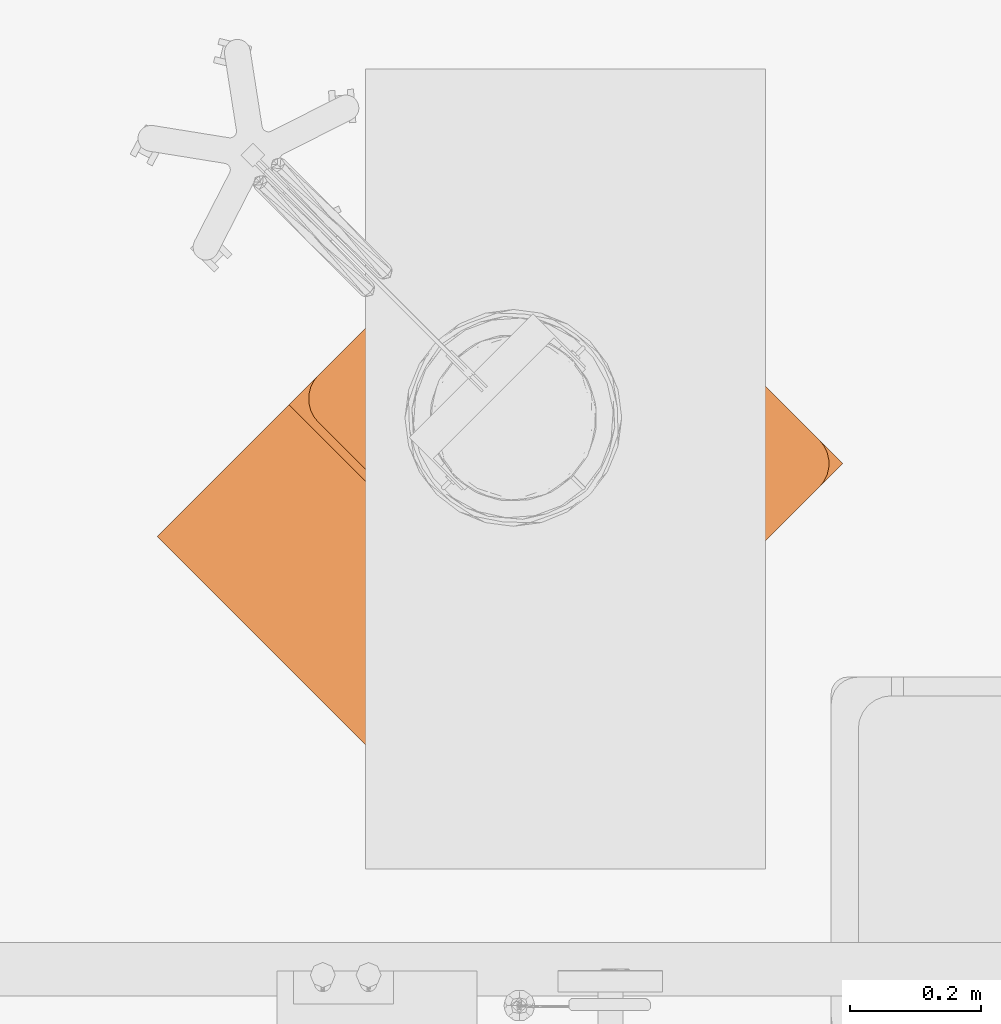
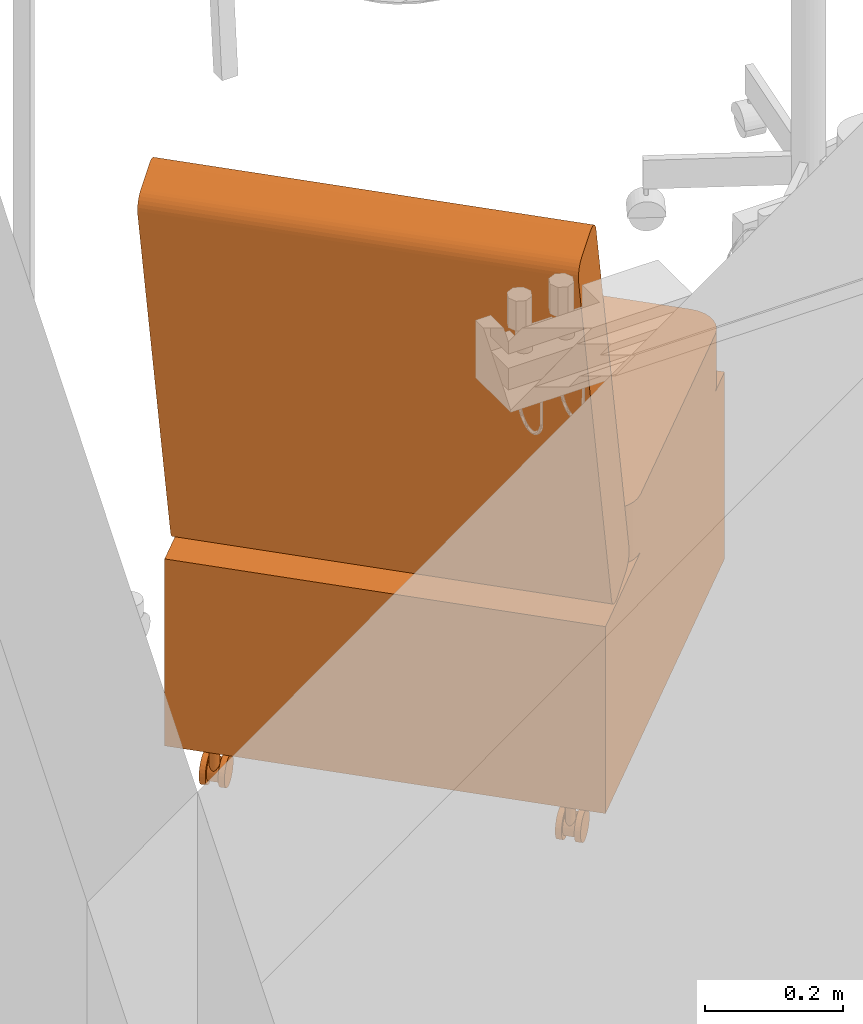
# One storey, part 24 of 142: 1 proxy.
"""IFC2X3 building model written with IfcOpenShell, lengths in feet."""

import ifcopenshell
import ifcopenshell.guid

model = None  # the IFC model being written
_history = None  # IfcOwnerHistory: only IFC2X3 demands one
_inside = {}  # id of a spatial element -> (the spatial element, [elements in it])
_under = {}  # id of a project, library or spatial element -> (it, [spatial elements below it])
_declared = {}  # id of a project -> (the project, [libraries it declares])
_typed = {}  # id of a type object -> (the type object, [elements of that type])
_made_of = {}  # id of a material, layer set ... -> (it, [elements and type objects made of it])


def new_model(schema):
    """Start an empty IFC model of exactly this schema.

    Asked for "IFC4X3", IfcOpenShell would pick the latest addendum, in which some entities
    have other attributes; the version numbers below select the first issue.
    IFC2X3 requires an IfcOwnerHistory on every rooted entity: one is made here for all.
    """
    global model, _history
    if schema == "IFC4X3":
        model = ifcopenshell.file(schema_version=(4, 3, 0, 0))
    else:
        model = ifcopenshell.file(schema=schema)
    _inside.clear()
    _under.clear()
    _declared.clear()
    _typed.clear()
    _made_of.clear()
    _history = None
    if model.schema == "IFC2X3":
        org = make("IfcOrganization", Name="unknown")
        user = make(
            "IfcPersonAndOrganization",
            ThePerson=make("IfcPerson", FamilyName="unknown"),
            TheOrganization=org,
        )
        app = make(
            "IfcApplication",
            ApplicationDeveloper=org,
            Version="unknown",
            ApplicationFullName="unknown",
            ApplicationIdentifier="unknown",
        )
        _history = make(
            "IfcOwnerHistory",
            OwningUser=user,
            OwningApplication=app,
            ChangeAction="ADDED",
            CreationDate=0,
        )
    return model


def make(cls, **values):
    """One entity of the class cls with the attributes given. An attribute that is None is left unset."""
    return model.create_entity(
        cls, **{name: value for name, value in values.items() if value is not None}
    )


def entity(cls, *values):
    """Any entity or typed value of the class cls, its attributes in the order of the schema. None: left unset."""
    e = model.create_entity(cls)
    for i, value in enumerate(values):
        if value is not None:
            e[i] = value
    return e


def rooted(cls, **values):
    """An entity with a GlobalId (a new one), such as an element, a storey or a relation."""
    return make(cls, GlobalId=ifcopenshell.guid.new(), OwnerHistory=_history, **values)


def si_unit(unit_type, name, prefix=None):
    """IfcSIUnit, for example si_unit("LENGTHUNIT", "METRE", prefix="MILLI")."""
    return make("IfcSIUnit", UnitType=unit_type, Prefix=prefix, Name=name)


def converted_unit(unit_type, name, factor, base, dimensions=None, offset=None):
    """IfcConversionBasedUnit, such as the inch: factor (a typed value) times the base unit."""
    return make(
        "IfcConversionBasedUnit"
        if offset is None
        else "IfcConversionBasedUnitWithOffset",
        ConversionOffset=offset,
        Dimensions=None
        if dimensions is None
        else entity("IfcDimensionalExponents", *dimensions),
        UnitType=unit_type,
        Name=name,
        ConversionFactor=make(
            "IfcMeasureWithUnit", ValueComponent=factor, UnitComponent=base
        ),
    )


def derived_unit(unit_type, elements):
    """IfcDerivedUnit: a product of units, each with its exponent."""
    return make(
        "IfcDerivedUnit",
        Elements=[
            make("IfcDerivedUnitElement", Unit=unit, Exponent=power)
            for unit, power in elements
        ],
        UnitType=unit_type,
    )


def assignment(units):
    """IfcUnitAssignment: the units of a project."""
    return None if units is None else make("IfcUnitAssignment", Units=units)


def point(xyz):
    """IfcCartesianPoint."""
    return None if xyz is None else make("IfcCartesianPoint", Coordinates=xyz)


def direction(xyz):
    """IfcDirection."""
    return None if xyz is None else make("IfcDirection", DirectionRatios=xyz)


def frame(location, z_axis=None, x_axis=None):
    """IfcAxis2Placement3D, a coordinate frame: its origin and axes. An axis left out is left unset."""
    return make(
        "IfcAxis2Placement3D",
        Location=point(location),
        Axis=direction(z_axis),
        RefDirection=direction(x_axis),
    )


def frame_2d(location, x_axis=None):
    """IfcAxis2Placement2D, a coordinate frame in the plane: its origin and x axis."""
    return make(
        "IfcAxis2Placement2D", Location=point(location), RefDirection=direction(x_axis)
    )


def origin():
    """The frame at (0, 0, 0) with its axes left unset."""
    return frame((0.0, 0.0, 0.0))


def origin_2d_with_axis():
    """The frame at (0, 0) in the plane with the x axis (1, 0) written out."""
    return frame_2d((0.0, 0.0), x_axis=(1.0, 0.0))


def place(relative_to, where):
    """IfcLocalPlacement: puts the frame where relative to a parent placement (None: the world)."""
    return make(
        "IfcLocalPlacement", PlacementRelTo=relative_to, RelativePlacement=where
    )


def context(
    kind, dimensions, precision=None, world=None, true_north=None, identifier=None
):
    """IfcGeometricRepresentationContext, for example the 3D "Model" context."""
    return make(
        "IfcGeometricRepresentationContext",
        ContextIdentifier=identifier,
        ContextType=kind,
        CoordinateSpaceDimension=dimensions,
        Precision=precision,
        WorldCoordinateSystem=world,
        TrueNorth=true_north,
    )


def subcontext(parent, identifier, kind, view, scale=None):
    """IfcGeometricRepresentationSubContext, for example "Body" below "Model"."""
    return make(
        "IfcGeometricRepresentationSubContext",
        ContextIdentifier=identifier,
        ContextType=kind,
        ParentContext=parent,
        TargetScale=scale,
        TargetView=view,
    )


def project(units=None, contexts=None):
    """IfcProject with its units and contexts."""
    return rooted(
        "IfcProject",
        Name="project",
        RepresentationContexts=contexts,
        UnitsInContext=assignment(units),
    )


def spatial(cls, under=None, at=None, **own):
    """A site, building, storey or space (cls), placed at a placement, below another one or the project."""
    s = rooted(cls, ObjectPlacement=at, **own)
    if under is not None:
        _under.setdefault(under.id(), (under, []))[1].append(s)
    return s


def polyline(points):
    """IfcPolyline through the points."""
    return make("IfcPolyline", Points=[point(p) for p in points])


def circle_curve(where, radius):
    """IfcCircle in the frame where."""
    return make("IfcCircle", Position=where, Radius=radius)


def parameter(value):
    """IfcParameterValue: where a trimmed curve begins or ends, as a parameter of its basis curve."""
    return model.create_entity("IfcParameterValue", value)


def trimmed(basis, trim1, trim2, sense, master):
    """IfcTrimmedCurve: the piece of a basis curve between two trims."""
    return make(
        "IfcTrimmedCurve",
        BasisCurve=basis,
        Trim1=trim1,
        Trim2=trim2,
        SenseAgreement=sense,
        MasterRepresentation=master,
    )


def segment(curve, same_sense, transition):
    """IfcCompositeCurveSegment."""
    return make(
        "IfcCompositeCurveSegment",
        Transition=transition,
        SameSense=same_sense,
        ParentCurve=curve,
    )


def composite_curve(segments, self_intersect=None):
    """IfcCompositeCurve: segments joined end to end."""
    return make("IfcCompositeCurve", Segments=segments, SelfIntersect=self_intersect)


def profile(cls, at=None, kind="AREA", **sizes):
    """A parametric profile (cls). Its sizes go by their IFC names, for example OverallWidth=200.0."""
    return make(cls, ProfileType=kind, Position=at, **sizes)


def rectangle(**sizes):
    """IfcRectangleProfileDef."""
    return profile("IfcRectangleProfileDef", **sizes)


def circle(**sizes):
    """IfcCircleProfileDef."""
    return profile("IfcCircleProfileDef", **sizes)


def outline(outer, holes=None, kind="AREA"):
    """IfcArbitraryClosedProfileDef: a profile drawn as a closed curve; with holes, ...WithVoids."""
    if holes is None:
        return make("IfcArbitraryClosedProfileDef", ProfileType=kind, OuterCurve=outer)
    return make(
        "IfcArbitraryProfileDefWithVoids",
        ProfileType=kind,
        OuterCurve=outer,
        InnerCurves=holes,
    )


def extrude(swept, where, along, depth):
    """IfcExtrudedAreaSolid: the profile swept, set in the frame where, extruded along a direction by depth."""
    return make(
        "IfcExtrudedAreaSolid",
        SweptArea=swept,
        Position=where,
        ExtrudedDirection=direction(along),
        Depth=depth,
    )


def shape(context_of_items, identifier, shape_type, items):
    """IfcShapeRepresentation: the items that make up one representation, for example the "Body"."""
    return make(
        "IfcShapeRepresentation",
        ContextOfItems=context_of_items,
        RepresentationIdentifier=identifier,
        RepresentationType=shape_type,
        Items=items,
    )


def source(mapping_origin, context_of_items, identifier, shape_type, items):
    """IfcRepresentationMap: a shape defined once, which mapped items show again and again."""
    return make(
        "IfcRepresentationMap",
        MappingOrigin=mapping_origin,
        MappedRepresentation=shape(context_of_items, identifier, shape_type, items),
    )


def transform(
    local_origin,
    x_axis=None,
    y_axis=None,
    z_axis=None,
    scale=None,
    scale2=None,
    scale3=None,
    uniform=True,
):
    """IfcCartesianTransformationOperator3D, or its non-uniform kind. x_axis, y_axis, z_axis: its Axis1, 2, 3."""
    if uniform:
        return make(
            "IfcCartesianTransformationOperator3D",
            Axis1=direction(x_axis),
            Axis2=direction(y_axis),
            LocalOrigin=point(local_origin),
            Scale=scale,
            Axis3=direction(z_axis),
        )
    return make(
        "IfcCartesianTransformationOperator3DnonUniform",
        Axis1=direction(x_axis),
        Axis2=direction(y_axis),
        LocalOrigin=point(local_origin),
        Scale=scale,
        Axis3=direction(z_axis),
        Scale2=scale2,
        Scale3=scale3,
    )


def mapped(mapping_source, mapping_target):
    """IfcMappedItem: shows the shape of a source again, moved by a transform."""
    return make(
        "IfcMappedItem", MappingSource=mapping_source, MappingTarget=mapping_target
    )


def made_of(thing, what):
    """Note that an element or type object is made of a material, layer set ...; save() writes the relation."""
    if what is not None:
        _made_of.setdefault(what.id(), (what, []))[1].append(thing)
    return thing


def type_object(cls, material=None, **own):
    """A type object (cls), such as IfcWallType, which elements share."""
    return made_of(rooted(cls, **own), material)


def type_shapes(of_type, sources):
    """Give a type object the sources (RepresentationMaps) that its elements show as mapped items."""
    of_type.RepresentationMaps = sources


def element(
    cls,
    number,
    at=None,
    inside=None,
    cuts=None,
    type_object=None,
    material=None,
    context=None,
    identifier="Body",
    shape_type=None,
    held_by="IfcProductDefinitionShape",
    body=None,
    shapes=None,
    **own,
):
    """One element of the class cls, such as IfcWall. Its Tag is "e" and its number.

    at: its placement. inside: the storey or other place that contains it. cuts: it is an
    opening in that element (IfcRelVoidsElement). A single representation is given by context,
    identifier, shape_type and body (its items); several are given by shapes. held_by: the class
    of the entity that holds the representations. save() writes the other relations.
    """
    e = rooted(cls, Tag="e%d" % number, ObjectPlacement=at, **own)
    if body is not None:
        shapes = [shape(context, identifier, shape_type, body)]
    if shapes is not None:
        e.Representation = make(held_by, Representations=shapes)
    if inside is not None:
        _inside.setdefault(inside.id(), (inside, []))[1].append(e)
    if cuts is not None:
        rooted(
            "IfcRelVoidsElement", RelatingBuildingElement=cuts, RelatedOpeningElement=e
        )
    if type_object is not None:
        _typed.setdefault(type_object.id(), (type_object, []))[1].append(e)
    return made_of(e, material)


def aggregate(whole, parts):
    """IfcRelAggregates: a whole, such as a stair, and the parts it consists of."""
    return rooted("IfcRelAggregates", RelatingObject=whole, RelatedObjects=parts)


def save(model, path):
    """Write the relations noted so far, then the file.

    IfcRelAggregates (storeys below a building ...), IfcRelContainedInSpatialStructure (elements
    in a storey), IfcRelDefinesByType, IfcRelAssociatesMaterial and IfcRelDeclares: one each for
    every whole, place, type object, material and project.
    """
    for whole, parts in _under.values():
        aggregate(whole, parts)
    for where, things in _inside.values():
        rooted(
            "IfcRelContainedInSpatialStructure",
            RelatedElements=things,
            RelatingStructure=where,
        )
    for kind, things in _typed.values():
        rooted("IfcRelDefinesByType", RelatedObjects=things, RelatingType=kind)
    for what, things in _made_of.values():
        rooted("IfcRelAssociatesMaterial", RelatedObjects=things, RelatingMaterial=what)
    for by, libraries in _declared.values():
        rooted("IfcRelDeclares", RelatingContext=by, RelatedDefinitions=libraries)
    model.write(path)


model = new_model("IFC2X3")

# Units and contexts
model_context = context("Model", 3, precision=0.0001, world=origin(), true_north=direction((6.12303176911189e-17, 1.0)))
body_context = subcontext(model_context, "Body", "Model", "MODEL_VIEW")
ifc_project = project(units=[converted_unit("LENGTHUNIT", "FOOT", entity("IfcRatioMeasure", 0.3048), si_unit("LENGTHUNIT", "METRE"), dimensions=[1, 0, 0, 0, 0, 0, 0]), converted_unit("AREAUNIT", "SQUARE FOOT", entity("IfcRatioMeasure", 0.09290304), si_unit("AREAUNIT", "SQUARE_METRE"), dimensions=[2, 0, 0, 0, 0, 0, 0]), converted_unit("VOLUMEUNIT", "CUBIC FOOT", entity("IfcRatioMeasure", 0.028316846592), si_unit("VOLUMEUNIT", "CUBIC_METRE"), dimensions=[3, 0, 0, 0, 0, 0, 0]), converted_unit("PLANEANGLEUNIT", "DEGREE", entity("IfcRatioMeasure", 0.0174532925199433), si_unit("PLANEANGLEUNIT", "RADIAN"), dimensions=[0, 0, 0, 0, 0, 0, 0]), si_unit("MASSUNIT", "GRAM", prefix="KILO"), derived_unit("MASSDENSITYUNIT", [(si_unit("MASSUNIT", "GRAM", prefix="KILO"), 1), (si_unit("LENGTHUNIT", "METRE"), -3)]), si_unit("TIMEUNIT", "SECOND"), si_unit("FREQUENCYUNIT", "HERTZ"), si_unit("THERMODYNAMICTEMPERATUREUNIT", "DEGREE_CELSIUS"), derived_unit("THERMALTRANSMITTANCEUNIT", [(si_unit("MASSUNIT", "GRAM", prefix="KILO"), 1), (si_unit("THERMODYNAMICTEMPERATUREUNIT", "KELVIN"), -1), (si_unit("TIMEUNIT", "SECOND"), -3)]), derived_unit("VOLUMETRICFLOWRATEUNIT", [(si_unit("LENGTHUNIT", "METRE"), 3), (si_unit("TIMEUNIT", "SECOND"), -1)]), si_unit("ELECTRICCURRENTUNIT", "AMPERE"), si_unit("ELECTRICVOLTAGEUNIT", "VOLT"), si_unit("POWERUNIT", "WATT"), si_unit("FORCEUNIT", "NEWTON"), si_unit("ILLUMINANCEUNIT", "LUX"), si_unit("LUMINOUSFLUXUNIT", "LUMEN"), si_unit("LUMINOUSINTENSITYUNIT", "CANDELA"), derived_unit("USERDEFINED", [(si_unit("MASSUNIT", "GRAM", prefix="KILO"), -1), (si_unit("LENGTHUNIT", "METRE"), -2), (si_unit("TIMEUNIT", "SECOND"), 3), (si_unit("LUMINOUSFLUXUNIT", "LUMEN"), 1)]), derived_unit("LINEARVELOCITYUNIT", [(si_unit("LENGTHUNIT", "METRE"), 1), (si_unit("TIMEUNIT", "SECOND"), -1)]), si_unit("PRESSUREUNIT", "PASCAL"), derived_unit("USERDEFINED", [(si_unit("LENGTHUNIT", "METRE"), -2), (si_unit("MASSUNIT", "GRAM", prefix="KILO"), 1), (si_unit("TIMEUNIT", "SECOND"), -2)])], contexts=[model_context])

# Site, building, storey, space
site_placement = place(None, origin())
site = spatial("IfcSite", under=ifc_project, at=site_placement, Name="Default", CompositionType="ELEMENT")
building_placement = place(site_placement, origin())
building = spatial("IfcBuilding", under=site, at=building_placement, Name="OUTPATIENT / PACT CLINIC (Ch. 265)", CompositionType="ELEMENT")
storey_placement = place(building_placement, origin())
storey = spatial("IfcBuildingStorey", under=building, at=storey_placement, Name="LEVEL 1", CompositionType="ELEMENT", Elevation=0.0)
space_placement = place(storey_placement, origin())
space = spatial("IfcSpace", under=storey, at=space_placement, Name="EXPA01", CompositionType="ELEMENT", InteriorOrExteriorSpace="INTERNAL")

# Proxy
building_element_proxy_type = type_object("IfcBuildingElementProxyType", Name="Exam/Treatment Table with Cabinet", PredefinedType="NOTDEFINED")
shared_shape = source(origin(), body_context, "Body", "SweptSolid", [
    extrude(circle(Radius=0.0833333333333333, at=frame_2d((0.0, -1.38777878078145e-16), x_axis=(1.0, 0.0))), frame((-0.843750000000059, 0.432291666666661, 0.0833333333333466), z_axis=(1.0, 0.0, 0.0), x_axis=(0.0, 1.0, 0.0)), (0.0, 0.0, 1.0), 0.0312500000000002),
    extrude(circle(Radius=0.0260416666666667, at=frame_2d((0.0, -5.55111512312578e-17), x_axis=(1.0, 0.0))), frame((-0.87500000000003, 0.463541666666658, 0.0801325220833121), z_axis=(0.0, 0.0, 1.0), x_axis=(-1.0, 0.0, 0.0)), (0.0, 0.0, 1.0), 0.211534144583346),
    extrude(circle(Radius=0.0625, at=frame_2d((0.0, -2.77555756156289e-16), x_axis=(1.0, 0.0))), frame((-0.90625000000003, 0.432291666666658, 0.0833333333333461), z_axis=(1.0, 0.0, 0.0), x_axis=(0.0, -1.0, 0.0)), (0.0, 0.0, 1.0), 0.0625),
    extrude(circle(Radius=0.0833333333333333, at=frame_2d((0.0, -1.38777878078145e-16), x_axis=(1.0, 0.0))), frame((-0.93750000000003, 0.432291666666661, 0.0833333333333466), z_axis=(1.0, 0.0, 0.0), x_axis=(0.0, 1.0, 0.0)), (0.0, 0.0, 1.0), 0.0312500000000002),
    extrude(circle(Radius=0.0833333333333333, at=frame_2d((0.0, -3.7470027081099e-16), x_axis=(1.0, 0.0))), frame((0.81250000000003, 0.432291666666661, 0.083333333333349), z_axis=(1.0, 0.0, 0.0), x_axis=(0.0, 1.0, 0.0)), (0.0, 0.0, 1.0), 0.0312500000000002),
    extrude(circle(Radius=0.0260416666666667, at=frame_2d((0.0, -5.55111512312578e-17), x_axis=(1.0, 0.0))), frame((0.875000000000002, 0.463541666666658, 0.0801325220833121)), (0.0, 0.0, 1.0), 0.211534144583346),
    extrude(circle(Radius=0.0625, at=frame_2d((0.0, -1.11022302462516e-16), x_axis=(1.0, 0.0))), frame((0.843750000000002, 0.432291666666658, 0.0833333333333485), z_axis=(1.0, 0.0, 0.0), x_axis=(0.0, -1.0, 0.0)), (0.0, 0.0, 1.0), 0.0625),
    extrude(circle(Radius=0.0833333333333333, at=frame_2d((0.0, -3.7470027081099e-16), x_axis=(1.0, 0.0))), frame((0.906250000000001, 0.432291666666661, 0.083333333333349), z_axis=(1.0, 0.0, 0.0), x_axis=(0.0, 1.0, 0.0)), (0.0, 0.0, 1.0), 0.0312500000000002),
    extrude(circle(Radius=0.0833333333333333, at=frame_2d((0.0, -1.38777878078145e-16), x_axis=(1.0, 0.0))), frame((-0.843750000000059, -1.41145833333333, 0.0833333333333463), z_axis=(1.0, 0.0, 0.0), x_axis=(0.0, -1.0, 0.0)), (0.0, 0.0, 1.0), 0.0312500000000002),
    extrude(circle(Radius=0.0260416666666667, at=origin_2d_with_axis()), frame((-0.87500000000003, -1.44270833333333, 0.0801325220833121), z_axis=(0.0, 0.0, 1.0), x_axis=(-1.0, 0.0, 0.0)), (0.0, 0.0, 1.0), 0.211534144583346),
    extrude(circle(Radius=0.0625, at=frame_2d((0.0, -2.77555756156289e-16), x_axis=(1.0, 0.0))), frame((-0.90625000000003, -1.41145833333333, 0.0833333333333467), z_axis=(1.0, 0.0, 0.0), x_axis=(0.0, 1.0, 0.0)), (0.0, 0.0, 1.0), 0.0625),
    extrude(circle(Radius=0.0833333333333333, at=frame_2d((0.0, -1.38777878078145e-16), x_axis=(1.0, 0.0))), frame((-0.93750000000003, -1.41145833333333, 0.0833333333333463), z_axis=(1.0, 0.0, 0.0), x_axis=(0.0, -1.0, 0.0)), (0.0, 0.0, 1.0), 0.0312500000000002),
    extrude(circle(Radius=0.0833333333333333, at=frame_2d((0.0, -3.7470027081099e-16), x_axis=(1.0, 0.0))), frame((0.81250000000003, -1.41145833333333, 0.0833333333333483), z_axis=(1.0, 0.0, 0.0), x_axis=(0.0, -1.0, 0.0)), (0.0, 0.0, 1.0), 0.0312500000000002),
    extrude(circle(Radius=0.0260416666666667, at=origin_2d_with_axis()), frame((0.875000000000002, -1.44270833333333, 0.0801325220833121)), (0.0, 0.0, 1.0), 0.211534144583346),
    extrude(circle(Radius=0.0625, at=frame_2d((0.0, -1.11022302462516e-16), x_axis=(1.0, 0.0))), frame((0.843750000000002, -1.41145833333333, 0.0833333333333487), z_axis=(1.0, 0.0, 0.0), x_axis=(0.0, 1.0, 0.0)), (0.0, 0.0, 1.0), 0.0625),
    extrude(circle(Radius=0.0833333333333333, at=frame_2d((0.0, -3.7470027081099e-16), x_axis=(1.0, 0.0))), frame((0.906250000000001, -1.41145833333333, 0.0833333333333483), z_axis=(1.0, 0.0, 0.0), x_axis=(0.0, -1.0, 0.0)), (0.0, 0.0, 1.0), 0.0312500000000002),
    extrude(rectangle(XDim=2.1666666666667, YDim=2.18316882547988, at=origin_2d_with_axis()), frame((0.0, -0.491748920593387, 0.291666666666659), z_axis=(0.0, 0.0, 1.0), x_axis=(-1.0, 0.0, 0.0)), (0.0, 0.0, 1.0), 1.08333333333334),
    extrude(outline(composite_curve([segment(trimmed(circle_curve(frame_2d((-0.221258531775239, -1.14772335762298), x_axis=(1.0, 0.0)), 0.0833333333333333), [parameter(255.0)], [parameter(345.0)], True, "PARAMETER"), True, "CONTINUOUS"), segment(polyline([(-0.140764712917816, -1.16929161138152), (0.462739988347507, 1.08301859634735)]), True, "CONTINUOUS"), segment(trimmed(circle_curve(frame_2d((0.382246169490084, 1.10458685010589), x_axis=(1.0, 0.0)), 0.0833333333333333), [parameter(345.000000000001)], [parameter(75.0000000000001)], True, "PARAMETER"), True, "CONTINUOUS"), segment(polyline([(0.403814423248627, 1.18508066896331), (0.242826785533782, 1.2282171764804)]), True, "CONTINUOUS"), segment(trimmed(circle_curve(frame_2d((0.221258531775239, 1.14772335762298), x_axis=(1.0, 0.0)), 0.0833333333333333), [parameter(74.9999999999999)], [parameter(165.0)], True, "PARAMETER"), True, "CONTINUOUS"), segment(polyline([(0.140764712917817, 1.16929161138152), (-0.462739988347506, -1.08301859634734)]), True, "CONTINUOUS"), segment(trimmed(circle_curve(frame_2d((-0.382246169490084, -1.10458685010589), x_axis=(1.0, 0.0)), 0.0833333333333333), [parameter(165.0)], [parameter(255.0)], True, "PARAMETER"), True, "CONTINUOUS"), segment(polyline([(-0.403814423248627, -1.18508066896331), (-0.242826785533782, -1.2282171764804)]), True, "CONTINUOUS")], self_intersect=False)), frame((-1.08333333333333, 0.632933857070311, 2.62668441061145), z_axis=(1.0, 0.0, 0.0), x_axis=(0.0, 1.0, 0.0)), (0.0, 0.0, 1.0), 2.16666666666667),
    extrude(outline(composite_curve([segment(polyline([(-0.916666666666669, -0.854166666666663), (0.91666666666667, -0.854166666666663)]), True, "CONTINUOUS"), segment(trimmed(circle_curve(frame_2d((0.916666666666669, -0.687499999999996), x_axis=(-1.0, 0.0)), 0.166666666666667), [parameter(90.0000000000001)], [parameter(180.0)], True, "PARAMETER"), True, "CONTINUOUS"), segment(polyline([(1.08333333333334, -0.687499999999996), (1.08333333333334, 0.687499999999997)]), True, "CONTINUOUS"), segment(trimmed(circle_curve(frame_2d((0.916666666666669, 0.687499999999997), x_axis=(-1.0, 0.0)), 0.166666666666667), [parameter(180.0)], [parameter(270.0)], True, "PARAMETER"), True, "CONTINUOUS"), segment(polyline([(0.916666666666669, 0.854166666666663), (-0.91666666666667, 0.854166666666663)]), True, "CONTINUOUS"), segment(trimmed(circle_curve(frame_2d((-0.916666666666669, 0.687499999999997), x_axis=(-1.0, 0.0)), 0.166666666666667), [parameter(270.0)], [parameter(0.0)], True, "PARAMETER"), True, "CONTINUOUS"), segment(polyline([(-1.08333333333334, 0.687499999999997), (-1.08333333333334, -0.687499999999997)]), True, "CONTINUOUS"), segment(trimmed(circle_curve(frame_2d((-0.916666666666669, -0.687499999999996), x_axis=(-1.0, 0.0)), 0.166666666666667), [parameter(0.0)], [parameter(90.0000000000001)], True, "PARAMETER"), True, "CONTINUOUS")], self_intersect=False)), frame((0.0, -0.729166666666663, 1.375), z_axis=(0.0, 0.0, 1.0), x_axis=(-1.0, 0.0, 0.0)), (0.0, 0.0, 1.0), 0.333333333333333),
])
type_shapes(building_element_proxy_type, [shared_shape])
proxy_placement = place(space_placement, frame((393.714225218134, -918.164394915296, 0.0260416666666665), z_axis=(0.0, 0.0, 1.0), x_axis=(-0.707106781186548, 0.707106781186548, 0.0)))
element("IfcBuildingElementProxy", 1, at=proxy_placement, inside=space, type_object=building_element_proxy_type, Name="M9025 - Exam Table1:Exam/Treatment Table with Cabinet", ObjectType="Exam/Treatment Table with Cabinet", context=body_context, shape_type="MappedRepresentation", body=[
    mapped(shared_shape, transform((0.0, 0.0, 0.0), scale=1.0)),
])

save(model, "model.ifc")
